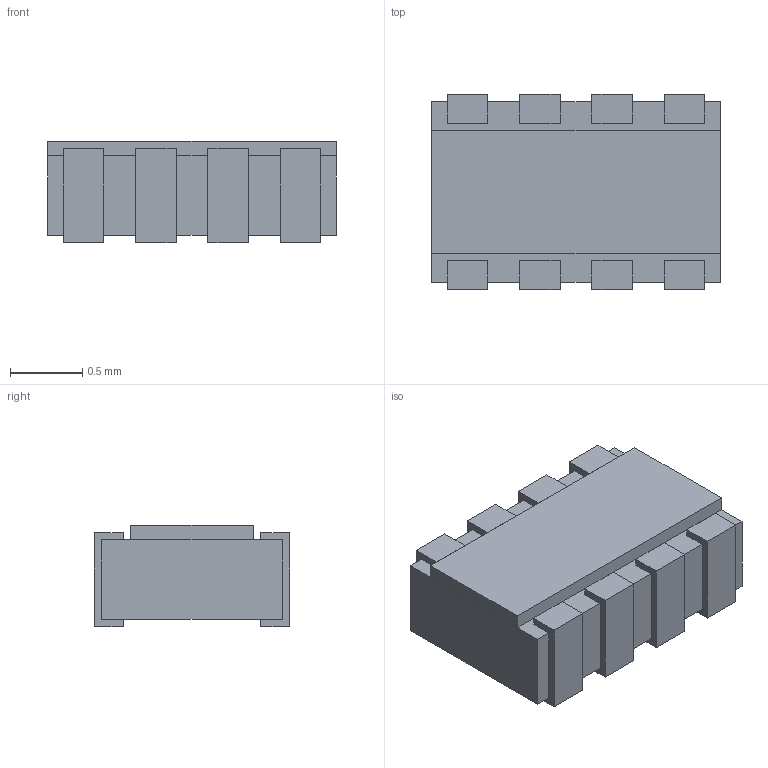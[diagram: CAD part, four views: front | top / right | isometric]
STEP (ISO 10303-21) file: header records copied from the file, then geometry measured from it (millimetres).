
FILE_DESCRIPTION (( 'STEP AP214' ), '1' );
FILE_NAME ( 'CAPCAXE8P50_200X125X70L20X28.STEP', '2021-10-06T06:48:57', ( '' ), ( '' ), '', '©2017 PCB Libraries, Inc.', '' );
FILE_SCHEMA (( 'AUTOMOTIVE_DESIGN' ));
Length unit declared in the file: millimetre
Products named in the file (1): CAPCAXE8P50_200X125X70L20X28
Bounding box: 2 x 1.35 x 0.7 mm (x, y, z)
Volume: 1.7 mm3; surface area: 17.8 mm2
Topology: 10 solids, 10 shells, 92 faces, 216 edges, 144 vertices
Faces by surface type: plane 92
Entity records: 2953 total; most frequent: CARTESIAN_POINT 453, ORIENTED_EDGE 432, DIRECTION 402, VECTOR 216, LINE 216, EDGE_CURVE 216, VERTEX_POINT 144, STYLED_ITEM 103
